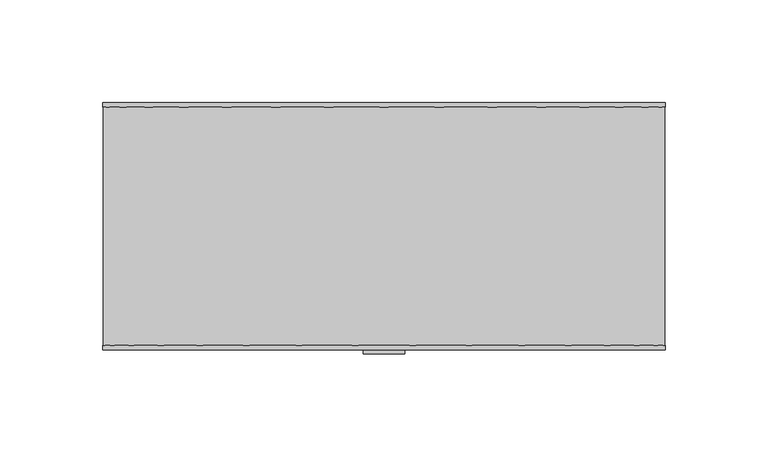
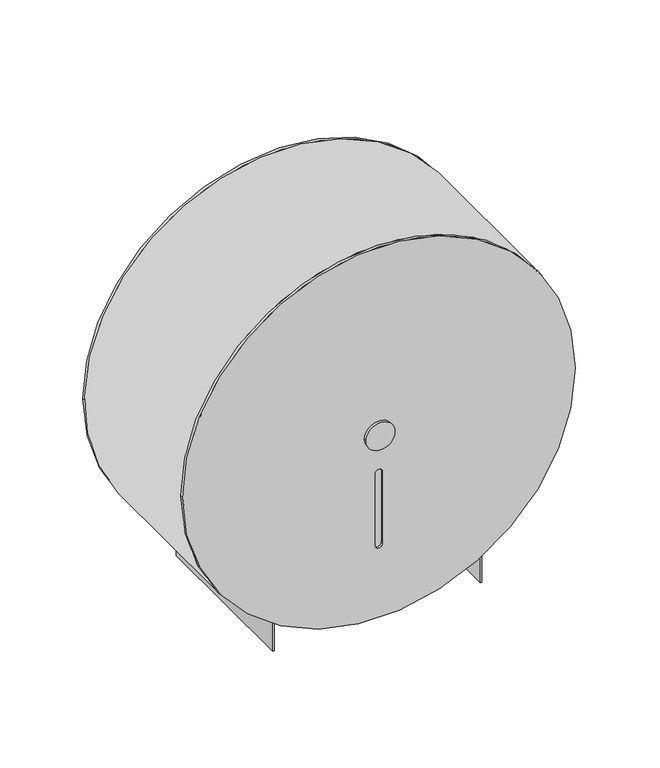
"""IFC4 building model written with IfcOpenShell, lengths in millimetres: proxy geometry, Toilet Roll Dispenser_Metlam_Single_Cabinet_Rounded : 273w x 120d x 273h (ML841)."""

from ifc_helpers import new_model, si_unit, point, frame, frame_2d, origin, place, context, project, spatial, polyline, circle_curve, trimmed, segment, composite_curve, outline, extrude, source, transform, mapped, element, save
from ifc_brep_helpers import plane_surface, cylinder_surface, revolved_surface, advanced_brep


def specialty_equipment_7c83437f(model_context):
    return source(origin(), model_context, "Body", "SolidModel", [
        extrude(outline(composite_curve([segment(trimmed(circle_curve(frame_2d((720.1650403, 0.0)), 10.0), [point((720.1650403, -10.0))], [point((720.1650403, 10.0))], False, "CARTESIAN"), True, "CONTINUOUS"), segment(trimmed(circle_curve(frame_2d((720.1650403, 0.0)), 10.0), [point((720.1650403, 10.0))], [point((720.1650403, -10.0))], False, "CARTESIAN"), True, "CONTINUOUS")], self_intersect=False)), frame((0.0, -122.0, 0.0), z_axis=(0.0, 1.0, 0.0), x_axis=(0.0, 0.0, 1.0)), (0.0, 0.0, 1.0), 2.0),
        advanced_brep(
        [(-136.5, -120.0, 721.6650403), (136.5, -120.0, 721.6650403), (-2.5, -120.0, 639.3408721), (-2.5, -120.0, 692.0839597), (2.5, -120.0, 692.0839597), (2.5, -120.0, 639.3408721), (71.7461339, -118.0, 605.5412173), (-71.7461339, -118.0, 605.5412173), (-71.7461339, -118.0, 606.7183471), (71.7461339, -118.0, 606.7183471), (-136.5, -118.0, 721.6650403), (-72.7461339, -118.0, 606.1650403), (72.7461339, -118.0, 606.1650403), (136.5, -118.0, 721.6650403), (-2.5, -118.301619, 692.0839597), (-2.5, -118.301619, 639.3408721), (2.5, -118.301619, 639.3408721), (2.5, -118.301619, 692.0839597), (-72.7461339, -118.0, 585.0), (-71.7461339, -118.0, 585.0), (71.7461339, -118.0, 585.0), (72.7461339, -118.0, 585.0), (72.7461339, -2.0, 606.1650403), (72.7461339, -2.0, 585.0), (71.7461339, -2.0, 585.0), (71.7461339, -2.0, 605.5412173), (-71.7461339, -2.0, 585.0), (-72.7461339, -2.0, 585.0), (-72.7461339, -2.0, 606.1650403), (-71.7461339, -2.0, 605.5412173), (-71.7461339, -2.0, 606.7183471), (71.7461339, -2.0, 606.7183471), (136.5, -2.0, 721.6650403), (-136.5, -2.0, 721.6650403), (-136.5, 0.0, 721.6650403), (136.5, 0.0, 721.6650403)],
        [
            (0, 1, circle_curve(frame((0.0, -120.0, 721.6650403), z_axis=(0.0, -1.0, 0.0), x_axis=(1.0, 0.0, 0.0)), 136.5)),
            (1, 0, circle_curve(frame((0.0, -120.0, 721.6650403), z_axis=(0.0, -1.0, 0.0), x_axis=(1.0, 0.0, 0.0)), 136.5)),
            (2, 3),
            (3, 4, circle_curve(frame((0.0, -120.0, 692.0839597), z_axis=(0.0, 1.0, 0.0), x_axis=(1.0, 0.0, 0.0)), 2.5)),
            (4, 5),
            (5, 2, circle_curve(frame((0.0, -120.0, 639.3408721), z_axis=(0.0, 1.0, 0.0), x_axis=(1.0, 0.0, 0.0)), 2.5)),
            (6, 7, circle_curve(frame((0.0, -118.0, 721.6650403), z_axis=(0.0, 1.0, 0.0), x_axis=(1.0, 0.0, 0.0)), 136.5)),
            (7, 8),
            (8, 9, circle_curve(frame((0.0, -118.0, 721.6650403), z_axis=(0.0, 1.0, 0.0), x_axis=(1.0, 0.0, 0.0)), 135.5)),
            (9, 6),
            (0, 10),
            (10, 11, circle_curve(frame((0.0, -118.0, 721.6650403), z_axis=(0.0, -1.0, 0.0), x_axis=(1.0, 0.0, 0.0)), 136.5)),
            (11, 7, circle_curve(frame((0.0, -118.0, 721.6650403), z_axis=(0.0, -1.0, 0.0), x_axis=(1.0, 0.0, 0.0)), 136.5)),
            (6, 12, circle_curve(frame((0.0, -118.0, 721.6650403), z_axis=(0.0, -1.0, 0.0), x_axis=(1.0, 0.0, 0.0)), 136.5)),
            (12, 13, circle_curve(frame((0.0, -118.0, 721.6650403), z_axis=(0.0, -1.0, 0.0), x_axis=(1.0, 0.0, 0.0)), 136.5)),
            (13, 1),
            (13, 10, circle_curve(frame((0.0, -118.0, 721.6650403), z_axis=(0.0, -1.0, 0.0), x_axis=(1.0, 0.0, 0.0)), 136.5)),
            (14, 15),
            (15, 16, circle_curve(frame((0.0, -118.301619, 639.3408721), z_axis=(0.0, -1.0, 0.0), x_axis=(1.0, 0.0, 0.0)), 2.5)),
            (16, 17),
            (17, 14, circle_curve(frame((0.0, -118.301619, 692.0839597), z_axis=(0.0, -1.0, 0.0), x_axis=(1.0, 0.0, 0.0)), 2.5)),
            (14, 3),
            (2, 15),
            (5, 16),
            (4, 17),
            (11, 18),
            (18, 19),
            (19, 7),
            (20, 21),
            (21, 12),
            (6, 20),
            (22, 23),
            (23, 24),
            (24, 25),
            (25, 22, circle_curve(frame((0.0, -2.0, 721.6650403), z_axis=(0.0, -1.0, 0.0), x_axis=(1.0, 0.0, 0.0)), 136.5)),
            (26, 27),
            (27, 28),
            (28, 29, circle_curve(frame((0.0, -2.0, 721.6650403), z_axis=(0.0, -1.0, 0.0), x_axis=(1.0, 0.0, 0.0)), 136.5)),
            (29, 26),
            (11, 28),
            (27, 18),
            (26, 19),
            (29, 30),
            (30, 8),
            (30, 31, circle_curve(frame((0.0, -2.0, 721.6650403), z_axis=(0.0, 1.0, 0.0), x_axis=(1.0, 0.0, 0.0)), 135.5)),
            (31, 9),
            (31, 25),
            (24, 20),
            (23, 21),
            (22, 12),
            (22, 32, circle_curve(frame((0.0, -2.0, 721.6650403), z_axis=(0.0, -1.0, 0.0), x_axis=(1.0, 0.0, 0.0)), 136.5)),
            (32, 33, circle_curve(frame((0.0, -2.0, 721.6650403), z_axis=(0.0, -1.0, 0.0), x_axis=(1.0, 0.0, 0.0)), 136.5)),
            (33, 28, circle_curve(frame((0.0, -2.0, 721.6650403), z_axis=(0.0, -1.0, 0.0), x_axis=(1.0, 0.0, 0.0)), 136.5)),
            (29, 25, circle_curve(frame((0.0, -2.0, 721.6650403), z_axis=(0.0, -1.0, 0.0), x_axis=(1.0, 0.0, 0.0)), 136.5)),
            (34, 35, circle_curve(frame((0.0, 0.0, 721.6650403), z_axis=(0.0, 1.0, 0.0), x_axis=(1.0, 0.0, 0.0)), 136.5)),
            (35, 34, circle_curve(frame((0.0, 0.0, 721.6650403), z_axis=(0.0, 1.0, 0.0), x_axis=(1.0, 0.0, 0.0)), 136.5)),
            (35, 32),
            (33, 34),
        ],
        [
            plane_surface(frame((136.5, -120.0, 721.6650403), z_axis=(0.0, -1.0, 0.0), x_axis=(0.0, 0.0, 1.0))),
            plane_surface(frame((136.5, -118.0, 721.6650403), z_axis=(0.0, 1.0, 0.0), x_axis=(0.0, 0.0, -1.0))),
            cylinder_surface(frame((0.0, -118.0, 721.6650403), z_axis=(0.0, -1.0, 0.0), x_axis=(1.0, 0.0, 0.0)), 136.5),
            plane_surface(frame((-2.5, -118.301619, 639.3408721), z_axis=(0.0, -1.0, 0.0), x_axis=(0.0, 0.0, 1.0))),
            plane_surface(frame((-2.5, -120.0, 692.0839597), z_axis=(1.0, 0.0, 0.0), x_axis=(0.0, 1.0, 0.0))),
            revolved_surface(polyline([(2.5, -120.0, 639.3408721), (2.5, -118.301619, 639.3408721)]), (0.0, -118.301619, 639.3408721), (0.0, -1.0, 0.0)),
            plane_surface(frame((2.5, -120.0, 639.3408721), z_axis=(-1.0, 0.0, 0.0), x_axis=(0.0, 1.0, 0.0))),
            revolved_surface(polyline([(2.5, -120.0, 692.0839597), (2.5, -118.301619, 692.0839597)]), (0.0, -118.301619, 692.0839597), (0.0, -1.0, 0.0)),
            plane_surface(frame((-72.7461339, -118.0, 606.1650403), z_axis=(0.0, -1.0, 0.0), x_axis=(0.0, 0.0, -1.0))),
            plane_surface(frame((-72.7461339, -2.0, 606.1650403), z_axis=(0.0, 1.0, 0.0), x_axis=(0.0, 0.0, 1.0))),
            plane_surface(frame((-72.7461339, -118.0, 606.1650403), z_axis=(-1.0, 0.0, 0.0), x_axis=(0.0, 1.0, 0.0))),
            plane_surface(frame((-72.7461339, -118.0, 585.0), z_axis=(0.0, 0.0, -1.0), x_axis=(0.0, 1.0, 0.0))),
            plane_surface(frame((-71.7461339, -118.0, 585.0), z_axis=(1.0, 0.0, 0.0), x_axis=(0.0, 1.0, 0.0))),
            revolved_surface(polyline([(135.5, -2.0, 721.6650403), (135.5, -118.0, 721.6650403)]), (0.0, -2.0, 721.6650403), (0.0, 1.0, 0.0)),
            plane_surface(frame((71.7461339, -118.0, 606.7183471), z_axis=(-1.0, 0.0, 0.0), x_axis=(0.0, 1.0, 0.0))),
            plane_surface(frame((71.7461339, -118.0, 585.0), z_axis=(0.0, 0.0, -1.0), x_axis=(0.0, 1.0, 0.0))),
            plane_surface(frame((72.7461339, -118.0, 585.0), z_axis=(1.0, 0.0, 0.0), x_axis=(0.0, 1.0, 0.0))),
            cylinder_surface(frame((0.0, -2.0, 721.6650403), z_axis=(0.0, -1.0, 0.0), x_axis=(1.0, 0.0, 0.0)), 136.5),
            plane_surface(frame((136.5, -2.0, 721.6650403), z_axis=(0.0, -1.0, 0.0), x_axis=(0.0, 0.0, 1.0))),
            plane_surface(frame((136.5, 0.0, 721.6650403), z_axis=(0.0, 1.0, 0.0), x_axis=(0.0, 0.0, -1.0))),
            cylinder_surface(frame((0.0, 0.0, 721.6650403), z_axis=(0.0, -1.0, 0.0), x_axis=(1.0, 0.0, 0.0)), 136.5),
        ],
        [
            (0, [[1, 2], [3, 4, 5, 6]]),
            (1, [[7, 8, 9, 10]]),
            (2, [[-1, 11, 12, 13, -7, 14, 15, 16]]),
            (2, [[-2, -16, 17, -11]]),
            (3, [[18, 19, 20, 21]]),
            (4, [[-18, 22, -3, 23]]),
            (5, [[-19, -23, -6, 24]]),
            (6, [[-20, -24, -5, 25]]),
            (7, [[-21, -25, -4, -22]]),
            (8, [[26, 27, 28, -13]]),
            (8, [[29, 30, -14, 31]]),
            (9, [[32, 33, 34, 35]]),
            (9, [[36, 37, 38, 39]]),
            (10, [[-26, 40, -37, 41]]),
            (11, [[-27, -41, -36, 42]]),
            (12, [[-42, -39, 43, 44, -8, -28]]),
            (13, [[-44, 45, 46, -9]]),
            (14, [[-46, 47, -34, 48, -31, -10]]),
            (15, [[-29, -48, -33, 49]]),
            (16, [[-30, -49, -32, 50]]),
            (17, [[-40, -12, -17, -15, -50, 51, 52, 53]]),
            (18, [[54, -47, -45, -43]]),
            (19, [[55, 56]]),
            (20, [[-56, 57, -51, -35, -54, -38, -53, 58]]),
            (20, [[-55, -58, -52, -57]]),
        ],
    ),
    ])


if __name__ == "__main__":
    model = new_model("IFC4")
    model_context = context("Model", 3, world=origin())
    ifc_project = project(units=[si_unit("LENGTHUNIT", "METRE", prefix="MILLI")], contexts=[model_context])
    site = spatial("IfcSite", under=ifc_project)
    building = spatial("IfcBuilding", under=site)
    placement = place(None, origin())
    specialty_equipment_shape = specialty_equipment_7c83437f(model_context)
    element("IfcBuildingElementProxy", 1, Name="Toilet Roll Dispenser_Metlam_Single_Cabinet_Rounded : 273w x 120d x 273h (ML841)", ObjectType="Toilet Roll Dispenser_Metlam_Single_Cabinet_Rounded : 273w x 120d x 273h (ML841)", at=placement, inside=building, context=model_context, shape_type="MappedRepresentation", body=[
        mapped(specialty_equipment_shape, transform((0.0, 0.0, 0.0), x_axis=(1.0, 0.0, 0.0), y_axis=(0.0, 1.0, 0.0), z_axis=(0.0, 0.0, 1.0))),
    ])
    save(model, "model.ifc")
